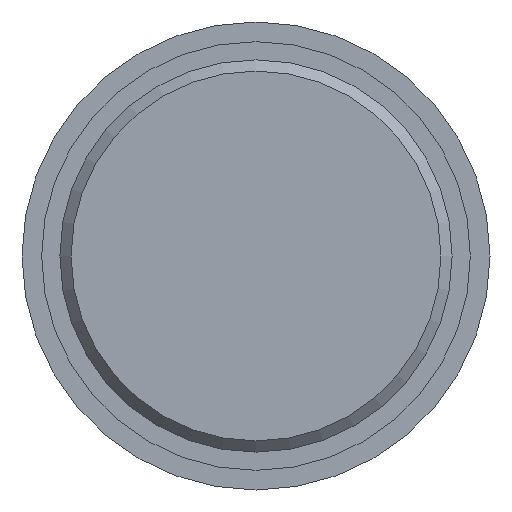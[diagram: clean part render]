
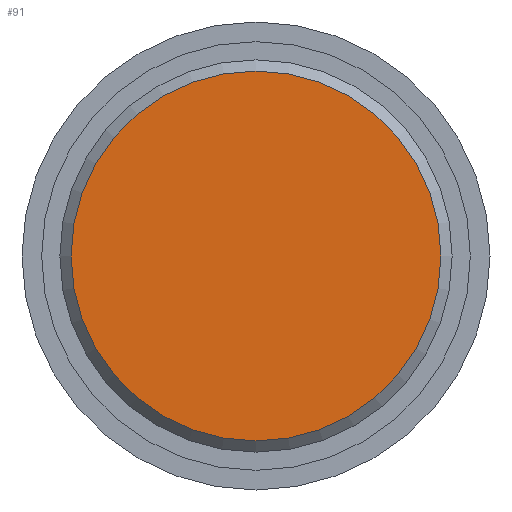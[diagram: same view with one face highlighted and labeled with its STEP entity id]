
A CAD part, front view. The second image highlights one B-rep face of the part: STEP entity #91.
In plain terms, the highlighted planar face has unit normal (0, -1, 0).
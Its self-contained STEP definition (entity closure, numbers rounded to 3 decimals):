
#91 = ADVANCED_FACE( '', ( #138 ), #139, .F. );
#138 = FACE_OUTER_BOUND( '', #193, .T. );
#139 = PLANE( '', #194 );
#193 = EDGE_LOOP( '', ( #308 ) );
#194 = AXIS2_PLACEMENT_3D( '', #309, #310, #311 );
#308 = ORIENTED_EDGE( '', *, *, #359, .T. );
#309 = CARTESIAN_POINT( '', ( 19.755, 0., 0. ) );
#310 = DIRECTION( '', ( 0., 1., 0. ) );
#311 = DIRECTION( '', ( 0., 0., 1. ) );
#359 = EDGE_CURVE( '', #411, #411, #412, .T. );
#411 = VERTEX_POINT( '', #485 );
#412 = CIRCLE( '', #486, 19.755 );
#485 = CARTESIAN_POINT( '', ( 0., 0., -19.755 ) );
#486 = AXIS2_PLACEMENT_3D( '', #538, #539, #540 );
#538 = CARTESIAN_POINT( '', ( 0., 0., 0. ) );
#539 = DIRECTION( '', ( 0., -1., 0. ) );
#540 = DIRECTION( '', ( 0., 0., -1. ) );
